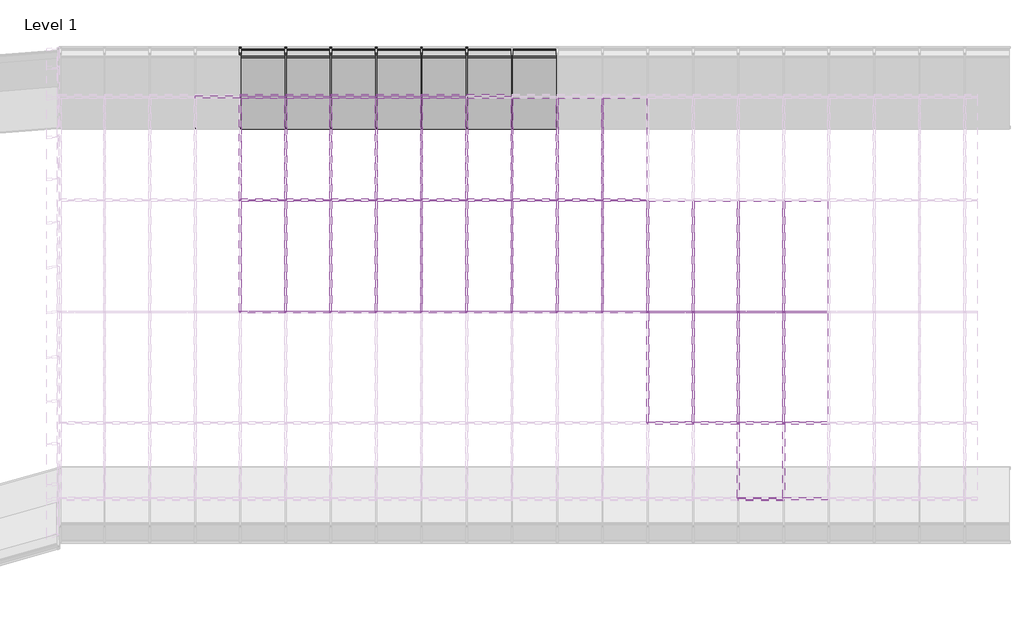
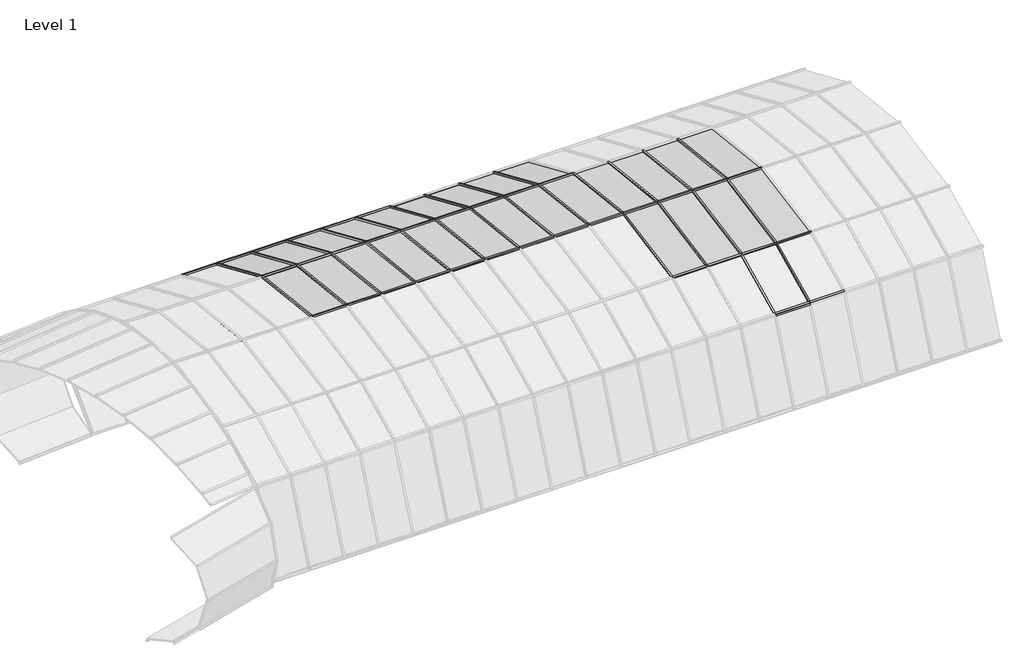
# One storey, part 19 of 23: 81 members, 40 plates.
"""IFC4 building model written with IfcOpenShell, lengths in millimetres."""

from ifc_helpers import new_model, si_unit, origin, place, context, project, spatial, transform, mapped, element, save
from components import member_68981e21, member_3e1f1dd8, member_14e241b9, member_67cfadff, member_309acb9e, member_0f8f75f6, system_panel_glazed_51f493bd, system_panel_glazed_6e806f8e, system_panel_glazed_3957fabc

model = new_model("IFC4")

# Units and contexts
model_context = context("Model", 3, world=origin())
ifc_project = project(units=[si_unit("LENGTHUNIT", "METRE", prefix="MILLI")], contexts=[model_context])

# Site, building, storey
site = spatial("IfcSite", under=ifc_project)
building = spatial("IfcBuilding", under=site)
storey = spatial("IfcBuildingStorey", under=building, Name="Level 1", Elevation=0.0)

# Members
placement = place(None, origin())
member_shape = member_68981e21(model_context)
element("IfcMember", 1, ObjectType="Rectangular Mullion : 1\" Square", at=placement, inside=storey, context=model_context, shape_type="MappedRepresentation", body=[
    mapped(member_shape, transform((-768.9499814, 2108.5088854, 2085.6089632), x_axis=(0.0, -0.9009025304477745, -0.43402146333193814), y_axis=(0.0, -0.43402146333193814, 0.9009025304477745), z_axis=(-1.0, 0.0, 0.0))),
])
element("IfcMember", 2, ObjectType="Rectangular Mullion : 1\" Square", at=placement, inside=storey, context=model_context, shape_type="MappedRepresentation", body=[
    mapped(member_shape, transform((-159.3499814, 2108.5088854, 2085.6089632), x_axis=(0.0, -0.9009025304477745, -0.43402146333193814), y_axis=(0.0, -0.43402146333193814, 0.9009025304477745), z_axis=(-1.0, 0.0, 0.0))),
])
element("IfcMember", 3, ObjectType="Rectangular Mullion : 1\" Square", at=placement, inside=storey, context=model_context, shape_type="MappedRepresentation", body=[
    mapped(member_shape, transform((-7474.5499814, 7543.2525753, 2085.6089632), x_axis=(0.0, 0.9167487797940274, -0.3994642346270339), y_axis=(0.0, 0.3994642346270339, 0.9167487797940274), z_axis=(1.0, 0.0, 0.0))),
])
element("IfcMember", 4, ObjectType="Rectangular Mullion : 1\" Square", at=placement, inside=storey, context=model_context, shape_type="MappedRepresentation", body=[
    mapped(member_shape, transform((-6864.9499814, 7543.2525753, 2085.6089632), x_axis=(0.0, 0.9167487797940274, -0.3994642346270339), y_axis=(0.0, 0.3994642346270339, 0.9167487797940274), z_axis=(1.0, 0.0, 0.0))),
])
element("IfcMember", 5, ObjectType="Rectangular Mullion : 1\" Square", at=placement, inside=storey, context=model_context, shape_type="MappedRepresentation", body=[
    mapped(member_shape, transform((-6255.3499814, 7543.2525753, 2085.6089632), x_axis=(0.0, 0.9167487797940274, -0.3994642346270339), y_axis=(0.0, 0.3994642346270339, 0.9167487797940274), z_axis=(1.0, 0.0, 0.0))),
])
element("IfcMember", 6, ObjectType="Rectangular Mullion : 1\" Square", at=placement, inside=storey, context=model_context, shape_type="MappedRepresentation", body=[
    mapped(member_shape, transform((-5645.7499814, 7543.2525753, 2085.6089632), x_axis=(0.0, 0.9167487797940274, -0.3994642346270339), y_axis=(0.0, 0.3994642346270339, 0.9167487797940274), z_axis=(1.0, 0.0, 0.0))),
])
element("IfcMember", 7, ObjectType="Rectangular Mullion : 1\" Square", at=placement, inside=storey, context=model_context, shape_type="MappedRepresentation", body=[
    mapped(member_shape, transform((-5036.1499814, 7543.2525753, 2085.6089632), x_axis=(0.0, 0.9167487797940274, -0.3994642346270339), y_axis=(0.0, 0.3994642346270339, 0.9167487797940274), z_axis=(1.0, 0.0, 0.0))),
])
element("IfcMember", 8, ObjectType="Rectangular Mullion : 1\" Square", at=placement, inside=storey, context=model_context, shape_type="MappedRepresentation", body=[
    mapped(member_shape, transform((-4426.5499814, 7543.2525753, 2085.6089632), x_axis=(0.0, 0.9167487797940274, -0.3994642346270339), y_axis=(0.0, 0.3994642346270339, 0.9167487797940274), z_axis=(1.0, 0.0, 0.0))),
])
element("IfcMember", 9, ObjectType="Rectangular Mullion : 1\" Square", at=placement, inside=storey, context=model_context, shape_type="MappedRepresentation", body=[
    mapped(member_shape, transform((-7474.5499814, 7111.8807303, 0.0), x_axis=(0.0, -0.7134126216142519, -0.7007441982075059), y_axis=(0.0, 0.7007441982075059, -0.7134126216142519), z_axis=(1.0, 0.0, 0.0))),
])
element("IfcMember", 10, ObjectType="Rectangular Mullion : 1\" Square", at=placement, inside=storey, context=model_context, shape_type="MappedRepresentation", body=[
    mapped(member_shape, transform((-6864.9499814, 7111.8807303, 0.0), x_axis=(0.0, -0.7134126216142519, -0.7007441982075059), y_axis=(0.0, 0.7007441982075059, -0.7134126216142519), z_axis=(1.0, 0.0, 0.0))),
])
element("IfcMember", 11, ObjectType="Rectangular Mullion : 1\" Square", at=placement, inside=storey, context=model_context, shape_type="MappedRepresentation", body=[
    mapped(member_shape, transform((-6255.3499814, 7111.8807303, 0.0), x_axis=(0.0, -0.7134126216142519, -0.7007441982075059), y_axis=(0.0, 0.7007441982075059, -0.7134126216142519), z_axis=(1.0, 0.0, 0.0))),
])
element("IfcMember", 12, ObjectType="Rectangular Mullion : 1\" Square", at=placement, inside=storey, context=model_context, shape_type="MappedRepresentation", body=[
    mapped(member_shape, transform((-5645.7499814, 7111.8807303, 0.0), x_axis=(0.0, -0.7134126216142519, -0.7007441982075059), y_axis=(0.0, 0.7007441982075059, -0.7134126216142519), z_axis=(1.0, 0.0, 0.0))),
])
element("IfcMember", 13, ObjectType="Rectangular Mullion : 1\" Square", at=placement, inside=storey, context=model_context, shape_type="MappedRepresentation", body=[
    mapped(member_shape, transform((-5036.1499814, 7111.8807303, 0.0), x_axis=(0.0, -0.7134126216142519, -0.7007441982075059), y_axis=(0.0, 0.7007441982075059, -0.7134126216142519), z_axis=(1.0, 0.0, 0.0))),
])
element("IfcMember", 14, ObjectType="Rectangular Mullion : 1\" Square", at=placement, inside=storey, context=model_context, shape_type="MappedRepresentation", body=[
    mapped(member_shape, transform((-4426.5499814, 7111.8807303, 0.0), x_axis=(0.0, -0.7134126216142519, -0.7007441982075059), y_axis=(0.0, 0.7007441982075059, -0.7134126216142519), z_axis=(1.0, 0.0, 0.0))),
])
member_2_shape = member_3e1f1dd8(model_context)
element("IfcMember", 15, ObjectType="Rectangular Mullion : 1\" Square", at=placement, inside=storey, context=model_context, shape_type="MappedRepresentation", body=[
    mapped(member_2_shape, transform((-7474.5499814, 4631.6132499, 2864.1651971), x_axis=(0.0, -0.9992773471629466, -0.038010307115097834), y_axis=(0.0, -0.038010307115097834, 0.9992773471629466), z_axis=(-1.0, 0.0, 0.0))),
])
element("IfcMember", 16, ObjectType="Rectangular Mullion : 1\" Square", at=placement, inside=storey, context=model_context, shape_type="MappedRepresentation", body=[
    mapped(member_2_shape, transform((-6864.9499814, 4631.6132499, 2864.1651971), x_axis=(0.0, -0.9992773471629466, -0.038010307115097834), y_axis=(0.0, -0.038010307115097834, 0.9992773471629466), z_axis=(-1.0, 0.0, 0.0))),
])
element("IfcMember", 17, ObjectType="Rectangular Mullion : 1\" Square", at=placement, inside=storey, context=model_context, shape_type="MappedRepresentation", body=[
    mapped(member_2_shape, transform((-6255.3499814, 4631.6132499, 2864.1651971), x_axis=(0.0, -0.9992773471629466, -0.038010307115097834), y_axis=(0.0, -0.038010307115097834, 0.9992773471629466), z_axis=(-1.0, 0.0, 0.0))),
])
element("IfcMember", 18, ObjectType="Rectangular Mullion : 1\" Square", at=placement, inside=storey, context=model_context, shape_type="MappedRepresentation", body=[
    mapped(member_2_shape, transform((-5645.7499814, 4631.6132499, 2864.1651971), x_axis=(0.0, -0.9992773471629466, -0.038010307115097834), y_axis=(0.0, -0.038010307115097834, 0.9992773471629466), z_axis=(-1.0, 0.0, 0.0))),
])
element("IfcMember", 19, ObjectType="Rectangular Mullion : 1\" Square", at=placement, inside=storey, context=model_context, shape_type="MappedRepresentation", body=[
    mapped(member_2_shape, transform((-5036.1499814, 4631.6132499, 2864.1651971), x_axis=(0.0, -0.9992773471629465, -0.038010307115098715), y_axis=(0.0, -0.038010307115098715, 0.9992773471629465), z_axis=(-1.0, 0.0, 0.0))),
])
element("IfcMember", 20, ObjectType="Rectangular Mullion : 1\" Square", at=placement, inside=storey, context=model_context, shape_type="MappedRepresentation", body=[
    mapped(member_2_shape, transform((-4426.5499814, 4631.6132499, 2864.1651971), x_axis=(0.0, -0.9992773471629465, -0.038010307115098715), y_axis=(0.0, -0.038010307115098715, 0.9992773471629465), z_axis=(-1.0, 0.0, 0.0))),
])
element("IfcMember", 21, ObjectType="Rectangular Mullion : 1\" Square", at=placement, inside=storey, context=model_context, shape_type="MappedRepresentation", body=[
    mapped(member_2_shape, transform((-3816.9499814, 4631.6132499, 2864.1651971), x_axis=(0.0, -0.9992773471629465, -0.038010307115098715), y_axis=(0.0, -0.038010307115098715, 0.9992773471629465), z_axis=(-1.0, 0.0, 0.0))),
])
element("IfcMember", 22, ObjectType="Rectangular Mullion : 1\" Square", at=placement, inside=storey, context=model_context, shape_type="MappedRepresentation", body=[
    mapped(member_2_shape, transform((-3207.3499814, 4631.6132499, 2864.1651971), x_axis=(0.0, -0.9992773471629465, -0.038010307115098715), y_axis=(0.0, -0.038010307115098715, 0.9992773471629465), z_axis=(-1.0, 0.0, 0.0))),
])
element("IfcMember", 23, ObjectType="Rectangular Mullion : 1\" Square", at=placement, inside=storey, context=model_context, shape_type="MappedRepresentation", body=[
    mapped(member_2_shape, transform((-2597.7499814, 4631.6132499, 2864.1651971), x_axis=(0.0, -0.9992773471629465, -0.038010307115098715), y_axis=(0.0, -0.038010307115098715, 0.9992773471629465), z_axis=(-1.0, 0.0, 0.0))),
])
element("IfcMember", 24, ObjectType="Rectangular Mullion : 1\" Square", at=placement, inside=storey, context=model_context, shape_type="MappedRepresentation", body=[
    mapped(member_2_shape, transform((-1988.1499814, 4631.6132499, 2864.1651971), x_axis=(0.0, -0.9992773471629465, -0.038010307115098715), y_axis=(0.0, -0.038010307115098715, 0.9992773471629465), z_axis=(-1.0, 0.0, 0.0))),
])
element("IfcMember", 25, ObjectType="Rectangular Mullion : 1\" Square", at=placement, inside=storey, context=model_context, shape_type="MappedRepresentation", body=[
    mapped(member_2_shape, transform((-1378.5499814, 4631.6132499, 2864.1651971), x_axis=(0.0, -0.9992773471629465, -0.038010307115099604), y_axis=(0.0, -0.038010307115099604, 0.9992773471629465), z_axis=(-1.0, 0.0, 0.0))),
])
element("IfcMember", 26, ObjectType="Rectangular Mullion : 1\" Square", at=placement, inside=storey, context=model_context, shape_type="MappedRepresentation", body=[
    mapped(member_2_shape, transform((-768.9499814, 4631.6132499, 2864.1651971), x_axis=(0.0, -0.9992773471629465, -0.038010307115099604), y_axis=(0.0, -0.038010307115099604, 0.9992773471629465), z_axis=(-1.0, 0.0, 0.0))),
])
element("IfcMember", 27, ObjectType="Rectangular Mullion : 1\" Square", at=placement, inside=storey, context=model_context, shape_type="MappedRepresentation", body=[
    mapped(member_2_shape, transform((-159.3499814, 4631.6132499, 2864.1651971), x_axis=(0.0, -0.9992773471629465, -0.038010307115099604), y_axis=(0.0, -0.038010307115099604, 0.9992773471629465), z_axis=(-1.0, 0.0, 0.0))),
])
element("IfcMember", 28, ObjectType="Rectangular Mullion : 1\" Square", at=placement, inside=storey, context=model_context, shape_type="MappedRepresentation", body=[
    mapped(member_2_shape, transform((-1988.1499814, 3134.3722562, 2579.8319299), x_axis=(0.0, -0.9436447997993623, -0.3309599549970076), y_axis=(0.0, -0.3309599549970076, 0.9436447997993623), z_axis=(-1.0, 0.0, 0.0))),
])
element("IfcMember", 29, ObjectType="Rectangular Mullion : 1\" Square", at=placement, inside=storey, context=model_context, shape_type="MappedRepresentation", body=[
    mapped(member_2_shape, transform((-1378.5499814, 3134.3722562, 2579.8319299), x_axis=(0.0, -0.9436447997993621, -0.3309599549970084), y_axis=(0.0, -0.3309599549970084, 0.9436447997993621), z_axis=(-1.0, 0.0, 0.0))),
])
element("IfcMember", 30, ObjectType="Rectangular Mullion : 1\" Square", at=placement, inside=storey, context=model_context, shape_type="MappedRepresentation", body=[
    mapped(member_2_shape, transform((-768.9499814, 3134.3722562, 2579.8319299), x_axis=(0.0, -0.9436447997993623, -0.3309599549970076), y_axis=(0.0, -0.3309599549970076, 0.9436447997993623), z_axis=(-1.0, 0.0, 0.0))),
])
element("IfcMember", 31, ObjectType="Rectangular Mullion : 1\" Square", at=placement, inside=storey, context=model_context, shape_type="MappedRepresentation", body=[
    mapped(member_2_shape, transform((-159.3499814, 3134.3722562, 2579.8319299), x_axis=(0.0, -0.9436447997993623, -0.3309599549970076), y_axis=(0.0, -0.3309599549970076, 0.9436447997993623), z_axis=(-1.0, 0.0, 0.0))),
])
element("IfcMember", 32, ObjectType="Rectangular Mullion : 1\" Square", at=placement, inside=storey, context=model_context, shape_type="MappedRepresentation", body=[
    mapped(member_shape, transform((-159.3499814, 2108.5088854, 2085.6089632), x_axis=(0.0, 0.3768960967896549, 0.9262555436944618), y_axis=(0.0, -0.9262555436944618, 0.3768960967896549), z_axis=(1.0, 0.0, 0.0))),
])
element("IfcMember", 33, ObjectType="Rectangular Mullion : 1\" Square", at=placement, inside=storey, context=model_context, shape_type="MappedRepresentation", body=[
    mapped(member_shape, transform((-7474.5499814, 7543.2525753, 2085.6089632), x_axis=(0.0, -0.5417212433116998, 0.8405582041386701), y_axis=(0.0, 0.8405582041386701, 0.5417212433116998), z_axis=(-1.0, 0.0, 0.0))),
])
element("IfcMember", 34, ObjectType="Rectangular Mullion : 1\" Square", at=placement, inside=storey, context=model_context, shape_type="MappedRepresentation", body=[
    mapped(member_shape, transform((-6864.9499814, 7543.2525753, 2085.6089632), x_axis=(0.0, -0.5417212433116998, 0.8405582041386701), y_axis=(0.0, 0.8405582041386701, 0.5417212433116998), z_axis=(-1.0, 0.0, 0.0))),
])
element("IfcMember", 35, ObjectType="Rectangular Mullion : 1\" Square", at=placement, inside=storey, context=model_context, shape_type="MappedRepresentation", body=[
    mapped(member_shape, transform((-6255.3499814, 7543.2525753, 2085.6089632), x_axis=(0.0, -0.5417212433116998, 0.8405582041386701), y_axis=(0.0, 0.8405582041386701, 0.5417212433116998), z_axis=(-1.0, 0.0, 0.0))),
])
element("IfcMember", 36, ObjectType="Rectangular Mullion : 1\" Square", at=placement, inside=storey, context=model_context, shape_type="MappedRepresentation", body=[
    mapped(member_shape, transform((-5645.7499814, 7543.2525753, 2085.6089632), x_axis=(0.0, -0.5417212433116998, 0.8405582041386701), y_axis=(0.0, 0.8405582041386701, 0.5417212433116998), z_axis=(-1.0, 0.0, 0.0))),
])
element("IfcMember", 37, ObjectType="Rectangular Mullion : 1\" Square", at=placement, inside=storey, context=model_context, shape_type="MappedRepresentation", body=[
    mapped(member_shape, transform((-5036.1499814, 7543.2525753, 2085.6089632), x_axis=(0.0, -0.5417212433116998, 0.8405582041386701), y_axis=(0.0, 0.8405582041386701, 0.5417212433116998), z_axis=(-1.0, 0.0, 0.0))),
])
element("IfcMember", 38, ObjectType="Rectangular Mullion : 1\" Square", at=placement, inside=storey, context=model_context, shape_type="MappedRepresentation", body=[
    mapped(member_shape, transform((-4426.5499814, 7543.2525753, 2085.6089632), x_axis=(0.0, -0.5417212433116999, 0.84055820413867), y_axis=(0.0, 0.84055820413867, 0.5417212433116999), z_axis=(-1.0, 0.0, 0.0))),
])
element("IfcMember", 39, ObjectType="Rectangular Mullion : 1\" Square", at=placement, inside=storey, context=model_context, shape_type="MappedRepresentation", body=[
    mapped(member_2_shape, transform((-7474.5499814, 6146.1274349, 2694.3924567), x_axis=(0.0, -0.9660596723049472, 0.25831900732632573), y_axis=(0.0, 0.25831900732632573, 0.9660596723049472), z_axis=(-1.0, 0.0, 0.0))),
])
element("IfcMember", 40, ObjectType="Rectangular Mullion : 1\" Square", at=placement, inside=storey, context=model_context, shape_type="MappedRepresentation", body=[
    mapped(member_2_shape, transform((-6864.9499814, 6146.1274349, 2694.3924567), x_axis=(0.0, -0.9660596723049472, 0.25831900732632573), y_axis=(0.0, 0.25831900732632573, 0.9660596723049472), z_axis=(-1.0, 0.0, 0.0))),
])
element("IfcMember", 41, ObjectType="Rectangular Mullion : 1\" Square", at=placement, inside=storey, context=model_context, shape_type="MappedRepresentation", body=[
    mapped(member_2_shape, transform((-6255.3499814, 6146.1274349, 2694.3924567), x_axis=(0.0, -0.9660596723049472, 0.25831900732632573), y_axis=(0.0, 0.25831900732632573, 0.9660596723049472), z_axis=(-1.0, 0.0, 0.0))),
])
element("IfcMember", 42, ObjectType="Rectangular Mullion : 1\" Square", at=placement, inside=storey, context=model_context, shape_type="MappedRepresentation", body=[
    mapped(member_2_shape, transform((-5645.7499814, 6146.1274349, 2694.3924567), x_axis=(0.0, -0.9660596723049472, 0.25831900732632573), y_axis=(0.0, 0.25831900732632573, 0.9660596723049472), z_axis=(-1.0, 0.0, 0.0))),
])
element("IfcMember", 43, ObjectType="Rectangular Mullion : 1\" Square", at=placement, inside=storey, context=model_context, shape_type="MappedRepresentation", body=[
    mapped(member_2_shape, transform((-5036.1499814, 6146.1274349, 2694.3924567), x_axis=(0.0, -0.9660596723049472, 0.25831900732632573), y_axis=(0.0, 0.25831900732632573, 0.9660596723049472), z_axis=(-1.0, 0.0, 0.0))),
])
element("IfcMember", 44, ObjectType="Rectangular Mullion : 1\" Square", at=placement, inside=storey, context=model_context, shape_type="MappedRepresentation", body=[
    mapped(member_2_shape, transform((-4426.5499814, 6146.1274349, 2694.3924567), x_axis=(0.0, -0.9660596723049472, 0.25831900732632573), y_axis=(0.0, 0.25831900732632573, 0.9660596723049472), z_axis=(-1.0, 0.0, 0.0))),
])
element("IfcMember", 45, ObjectType="Rectangular Mullion : 1\" Square", at=placement, inside=storey, context=model_context, shape_type="MappedRepresentation", body=[
    mapped(member_2_shape, transform((-3816.9499814, 6146.1274349, 2694.3924567), x_axis=(0.0, -0.9660596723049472, 0.25831900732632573), y_axis=(0.0, 0.25831900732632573, 0.9660596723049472), z_axis=(-1.0, 0.0, 0.0))),
])
element("IfcMember", 46, ObjectType="Rectangular Mullion : 1\" Square", at=placement, inside=storey, context=model_context, shape_type="MappedRepresentation", body=[
    mapped(member_2_shape, transform((-3207.3499814, 6146.1274349, 2694.3924567), x_axis=(0.0, -0.9660596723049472, 0.25831900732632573), y_axis=(0.0, 0.25831900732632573, 0.9660596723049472), z_axis=(-1.0, 0.0, 0.0))),
])
element("IfcMember", 47, ObjectType="Rectangular Mullion : 1\" Square", at=placement, inside=storey, context=model_context, shape_type="MappedRepresentation", body=[
    mapped(member_2_shape, transform((-2597.7499814, 6146.1274349, 2694.3924567), x_axis=(0.0, -0.9660596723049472, 0.25831900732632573), y_axis=(0.0, 0.25831900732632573, 0.9660596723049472), z_axis=(-1.0, 0.0, 0.0))),
])
member_3_shape = member_14e241b9(model_context)
element("IfcMember", 48, ObjectType="Rectangular Mullion : 1\" Square", at=placement, inside=storey, context=model_context, shape_type="MappedRepresentation", body=[
    mapped(member_3_shape, transform((-768.9499814, 2131.3918096, 2096.6331083), x_axis=(1.0, 0.0, 0.0), y_axis=(0.0, -0.43402146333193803, 0.9009025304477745), z_axis=(0.0, -0.9009025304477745, -0.43402146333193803))),
])
element("IfcMember", 49, ObjectType="Rectangular Mullion : 1\" Square", at=placement, inside=storey, context=model_context, shape_type="MappedRepresentation", body=[
    mapped(member_3_shape, transform((-159.3499814, 2131.3918096, 2096.6331083), x_axis=(1.0, 0.0, 0.0), y_axis=(0.0, -0.43402146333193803, 0.9009025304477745), z_axis=(0.0, -0.9009025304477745, -0.43402146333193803))),
])
member_4_shape = member_67cfadff(model_context)
element("IfcMember", 50, ObjectType="Rectangular Mullion : 1\" Square", at=placement, inside=storey, context=model_context, shape_type="MappedRepresentation", body=[
    mapped(member_4_shape, transform((-5036.1499814, 6157.7701444, 2689.3192609), x_axis=(1.0, 0.0, 0.0), y_axis=(0.0, 0.3994642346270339, 0.9167487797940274), z_axis=(0.0, -0.9167487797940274, 0.3994642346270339))),
])
element("IfcMember", 51, ObjectType="Rectangular Mullion : 1\" Square", at=placement, inside=storey, context=model_context, shape_type="MappedRepresentation", body=[
    mapped(member_4_shape, transform((-4426.5499814, 6157.7701444, 2689.3192609), x_axis=(1.0, 0.0, 0.0), y_axis=(0.0, 0.3994642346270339, 0.9167487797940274), z_axis=(0.0, -0.9167487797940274, 0.3994642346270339))),
])
element("IfcMember", 52, ObjectType="Rectangular Mullion : 1\" Square", at=placement, inside=storey, context=model_context, shape_type="MappedRepresentation", body=[
    mapped(member_4_shape, transform((-3816.9499814, 6157.7701444, 2689.3192609), x_axis=(1.0, 0.0, 0.0), y_axis=(0.0, 0.3994642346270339, 0.9167487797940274), z_axis=(0.0, -0.9167487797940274, 0.3994642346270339))),
])
element("IfcMember", 53, ObjectType="Rectangular Mullion : 1\" Square", at=placement, inside=storey, context=model_context, shape_type="MappedRepresentation", body=[
    mapped(member_4_shape, transform((-3207.3499814, 6157.7701444, 2689.3192609), x_axis=(1.0, 0.0, 0.0), y_axis=(0.0, 0.3994642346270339, 0.9167487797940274), z_axis=(0.0, -0.9167487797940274, 0.3994642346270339))),
])
element("IfcMember", 54, ObjectType="Rectangular Mullion : 1\" Square", at=placement, inside=storey, context=model_context, shape_type="MappedRepresentation", body=[
    mapped(member_4_shape, transform((-2597.7499814, 6157.7701444, 2689.3192609), x_axis=(1.0, 0.0, 0.0), y_axis=(0.0, 0.3994642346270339, 0.9167487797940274), z_axis=(0.0, -0.9167487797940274, 0.3994642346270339))),
])
element("IfcMember", 55, ObjectType="Rectangular Mullion : 1\" Square", at=placement, inside=storey, context=model_context, shape_type="MappedRepresentation", body=[
    mapped(member_4_shape, transform((-6864.9499814, 6157.7701444, 2689.3192609), x_axis=(1.0, 0.0, 0.0), y_axis=(0.0, 0.3994642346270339, 0.9167487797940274), z_axis=(0.0, -0.9167487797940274, 0.3994642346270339))),
])
element("IfcMember", 56, ObjectType="Rectangular Mullion : 1\" Square", at=placement, inside=storey, context=model_context, shape_type="MappedRepresentation", body=[
    mapped(member_4_shape, transform((-6255.3499814, 6157.7701444, 2689.3192609), x_axis=(1.0, 0.0, 0.0), y_axis=(0.0, 0.3994642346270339, 0.9167487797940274), z_axis=(0.0, -0.9167487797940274, 0.3994642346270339))),
])
element("IfcMember", 57, ObjectType="Rectangular Mullion : 1\" Square", at=placement, inside=storey, context=model_context, shape_type="MappedRepresentation", body=[
    mapped(member_4_shape, transform((-5645.7499814, 6157.7701444, 2689.3192609), x_axis=(1.0, 0.0, 0.0), y_axis=(0.0, 0.3994642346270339, 0.9167487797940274), z_axis=(0.0, -0.9167487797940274, 0.3994642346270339))),
])
element("IfcMember", 58, ObjectType="Rectangular Mullion : 1\" Square", at=placement, inside=storey, context=model_context, shape_type="MappedRepresentation", body=[
    mapped(member_4_shape, transform((-7474.5499814, 6157.7701444, 2689.3192609), x_axis=(1.0, 0.0, 0.0), y_axis=(0.0, 0.3994642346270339, 0.9167487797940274), z_axis=(0.0, -0.9167487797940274, 0.3994642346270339))),
])
member_5_shape = member_309acb9e(model_context)
element("IfcMember", 59, ObjectType="Rectangular Mullion : 1\" Square", at=placement, inside=storey, context=model_context, shape_type="MappedRepresentation", body=[
    mapped(member_5_shape, transform((-1988.1499814, 4644.2342014, 2862.7504243), x_axis=(1.0, 0.0, 0.0), y_axis=(0.0, 0.1113994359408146, 0.9937757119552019), z_axis=(0.0, -0.9937757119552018, 0.11139943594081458))),
])
element("IfcMember", 60, ObjectType="Rectangular Mullion : 1\" Square", at=placement, inside=storey, context=model_context, shape_type="MappedRepresentation", body=[
    mapped(member_5_shape, transform((-1378.5499814, 4644.2342014, 2862.7504243), x_axis=(1.0, 0.0, 0.0), y_axis=(0.0, 0.1113994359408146, 0.9937757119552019), z_axis=(0.0, -0.9937757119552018, 0.11139943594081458))),
])
element("IfcMember", 61, ObjectType="Rectangular Mullion : 1\" Square", at=placement, inside=storey, context=model_context, shape_type="MappedRepresentation", body=[
    mapped(member_5_shape, transform((-768.9499814, 4644.2342014, 2862.7504243), x_axis=(1.0, 0.0, 0.0), y_axis=(0.0, 0.1113994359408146, 0.9937757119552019), z_axis=(0.0, -0.9937757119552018, 0.11139943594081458))),
])
element("IfcMember", 62, ObjectType="Rectangular Mullion : 1\" Square", at=placement, inside=storey, context=model_context, shape_type="MappedRepresentation", body=[
    mapped(member_5_shape, transform((-5645.7499814, 4644.2342014, 2862.7504243), x_axis=(1.0, 0.0, 0.0), y_axis=(0.0, 0.11139943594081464, 0.9937757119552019), z_axis=(0.0, -0.9937757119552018, 0.11139943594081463))),
])
element("IfcMember", 63, ObjectType="Rectangular Mullion : 1\" Square", at=placement, inside=storey, context=model_context, shape_type="MappedRepresentation", body=[
    mapped(member_5_shape, transform((-5036.1499814, 4644.2342014, 2862.7504243), x_axis=(1.0, 0.0, 0.0), y_axis=(0.0, 0.11139943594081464, 0.9937757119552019), z_axis=(0.0, -0.9937757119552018, 0.11139943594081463))),
])
element("IfcMember", 64, ObjectType="Rectangular Mullion : 1\" Square", at=placement, inside=storey, context=model_context, shape_type="MappedRepresentation", body=[
    mapped(member_5_shape, transform((-4426.5499814, 4644.2342014, 2862.7504243), x_axis=(1.0, 0.0, 0.0), y_axis=(0.0, 0.11139943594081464, 0.9937757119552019), z_axis=(0.0, -0.9937757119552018, 0.11139943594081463))),
])
element("IfcMember", 65, ObjectType="Rectangular Mullion : 1\" Square", at=placement, inside=storey, context=model_context, shape_type="MappedRepresentation", body=[
    mapped(member_5_shape, transform((-3816.9499814, 4644.2342014, 2862.7504243), x_axis=(1.0, 0.0, 0.0), y_axis=(0.0, 0.11139943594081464, 0.9937757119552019), z_axis=(0.0, -0.9937757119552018, 0.11139943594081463))),
])
element("IfcMember", 66, ObjectType="Rectangular Mullion : 1\" Square", at=placement, inside=storey, context=model_context, shape_type="MappedRepresentation", body=[
    mapped(member_5_shape, transform((-3207.3499814, 4644.2342014, 2862.7504243), x_axis=(1.0, 0.0, 0.0), y_axis=(0.0, 0.11139943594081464, 0.9937757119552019), z_axis=(0.0, -0.9937757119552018, 0.11139943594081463))),
])
element("IfcMember", 67, ObjectType="Rectangular Mullion : 1\" Square", at=placement, inside=storey, context=model_context, shape_type="MappedRepresentation", body=[
    mapped(member_5_shape, transform((-2597.7499814, 4644.2342014, 2862.7504243), x_axis=(1.0, 0.0, 0.0), y_axis=(0.0, 0.11139943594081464, 0.9937757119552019), z_axis=(0.0, -0.9937757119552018, 0.11139943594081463))),
])
element("IfcMember", 68, ObjectType="Rectangular Mullion : 1\" Square", at=placement, inside=storey, context=model_context, shape_type="MappedRepresentation", body=[
    mapped(member_5_shape, transform((-159.3499814, 4644.2342014, 2862.7504243), x_axis=(1.0, 0.0, 0.0), y_axis=(0.0, 0.1113994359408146, 0.9937757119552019), z_axis=(0.0, -0.9937757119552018, 0.11139943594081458))),
])
element("IfcMember", 69, ObjectType="Rectangular Mullion : 1\" Square", at=placement, inside=storey, context=model_context, shape_type="MappedRepresentation", body=[
    mapped(member_5_shape, transform((-6864.9499814, 4644.2342014, 2862.7504243), x_axis=(1.0, 0.0, 0.0), y_axis=(0.0, 0.11139943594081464, 0.9937757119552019), z_axis=(0.0, -0.9937757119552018, 0.11139943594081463))),
])
element("IfcMember", 70, ObjectType="Rectangular Mullion : 1\" Square", at=placement, inside=storey, context=model_context, shape_type="MappedRepresentation", body=[
    mapped(member_5_shape, transform((-6255.3499814, 4644.2342014, 2862.7504243), x_axis=(1.0, 0.0, 0.0), y_axis=(0.0, 0.11139943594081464, 0.9937757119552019), z_axis=(0.0, -0.9937757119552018, 0.11139943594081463))),
])
element("IfcMember", 71, ObjectType="Rectangular Mullion : 1\" Square", at=placement, inside=storey, context=model_context, shape_type="MappedRepresentation", body=[
    mapped(member_5_shape, transform((-7474.5499814, 4644.2342014, 2862.7504243), x_axis=(1.0, 0.0, 0.0), y_axis=(0.0, 0.11139943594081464, 0.9937757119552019), z_axis=(0.0, -0.9937757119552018, 0.11139943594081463))),
])
element("IfcMember", 72, ObjectType="Rectangular Mullion : 1\" Square", at=placement, inside=storey, context=model_context, shape_type="MappedRepresentation", body=[
    mapped(member_5_shape, transform((-1988.1499814, 3146.8492645, 2582.2013738), x_axis=(1.0, 0.0, 0.0), y_axis=(0.0, -0.1865703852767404, 0.9824415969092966), z_axis=(0.0, -0.9824415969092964, -0.18657038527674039))),
])
element("IfcMember", 73, ObjectType="Rectangular Mullion : 1\" Square", at=placement, inside=storey, context=model_context, shape_type="MappedRepresentation", body=[
    mapped(member_5_shape, transform((-1378.5499814, 3146.8492645, 2582.2013738), x_axis=(1.0, 0.0, 0.0), y_axis=(0.0, -0.18657038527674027, 0.9824415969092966), z_axis=(0.0, -0.9824415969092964, -0.18657038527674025))),
])
element("IfcMember", 74, ObjectType="Rectangular Mullion : 1\" Square", at=placement, inside=storey, context=model_context, shape_type="MappedRepresentation", body=[
    mapped(member_5_shape, transform((-768.9499814, 3146.8492645, 2582.2013738), x_axis=(1.0, 0.0, 0.0), y_axis=(0.0, -0.18657038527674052, 0.9824415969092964), z_axis=(0.0, -0.9824415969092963, -0.1865703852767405))),
])
element("IfcMember", 75, ObjectType="Rectangular Mullion : 1\" Square", at=placement, inside=storey, context=model_context, shape_type="MappedRepresentation", body=[
    mapped(member_5_shape, transform((-159.3499814, 3146.8492645, 2582.2013738), x_axis=(1.0, 0.0, 0.0), y_axis=(0.0, -0.18657038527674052, 0.9824415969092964), z_axis=(0.0, -0.9824415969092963, -0.1865703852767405))),
])
member_6_shape = member_0f8f75f6(model_context)
element("IfcMember", 76, ObjectType="Rectangular Mullion : 1\" Square", at=placement, inside=storey, context=model_context, shape_type="MappedRepresentation", body=[
    mapped(member_6_shape, transform((-6255.3499814, 7557.0122949, 2064.2587848), x_axis=(1.0, 0.0, 0.0), y_axis=(0.0, 0.8405582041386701, 0.5417212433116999), z_axis=(0.0, -0.5417212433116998, 0.84055820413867))),
])
element("IfcMember", 77, ObjectType="Rectangular Mullion : 1\" Square", at=placement, inside=storey, context=model_context, shape_type="MappedRepresentation", body=[
    mapped(member_6_shape, transform((-6864.9499814, 7557.0122949, 2064.2587848), x_axis=(1.0, 0.0, 0.0), y_axis=(0.0, 0.8405582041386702, 0.5417212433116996), z_axis=(0.0, -0.5417212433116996, 0.8405582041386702))),
])
element("IfcMember", 78, ObjectType="Rectangular Mullion : 1\" Square", at=placement, inside=storey, context=model_context, shape_type="MappedRepresentation", body=[
    mapped(member_6_shape, transform((-7474.5499814, 7557.0122949, 2064.2587848), x_axis=(1.0, 0.0, 0.0), y_axis=(0.0, 0.8405582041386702, 0.5417212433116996), z_axis=(0.0, -0.5417212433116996, 0.8405582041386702))),
])
element("IfcMember", 79, ObjectType="Rectangular Mullion : 1\" Square", at=placement, inside=storey, context=model_context, shape_type="MappedRepresentation", body=[
    mapped(member_6_shape, transform((-4426.5499814, 7557.0122949, 2064.2587848), x_axis=(1.0, 0.0, 0.0), y_axis=(0.0, 0.8405582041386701, 0.5417212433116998), z_axis=(0.0, -0.5417212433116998, 0.8405582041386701))),
])
element("IfcMember", 80, ObjectType="Rectangular Mullion : 1\" Square", at=placement, inside=storey, context=model_context, shape_type="MappedRepresentation", body=[
    mapped(member_6_shape, transform((-5036.1499814, 7557.0122949, 2064.2587848), x_axis=(1.0, 0.0, 0.0), y_axis=(0.0, 0.8405582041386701, 0.5417212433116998), z_axis=(0.0, -0.5417212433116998, 0.8405582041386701))),
])
element("IfcMember", 81, ObjectType="Rectangular Mullion : 1\" Square", at=placement, inside=storey, context=model_context, shape_type="MappedRepresentation", body=[
    mapped(member_6_shape, transform((-5645.7499814, 7557.0122949, 2064.2587848), x_axis=(1.0, 0.0, 0.0), y_axis=(0.0, 0.8405582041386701, 0.5417212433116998), z_axis=(0.0, -0.5417212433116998, 0.8405582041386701))),
])

# Plates
system_panel_glazed_shape = system_panel_glazed_51f493bd(model_context)
element("IfcPlate", 82, ObjectType="System Panel : Glazed", at=placement, inside=storey, context=model_context, shape_type="MappedRepresentation", body=[
    mapped(system_panel_glazed_shape, transform((-7461.8499814, 6838.8686503, 2392.5373078), x_axis=(0.0, -0.9167487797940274, 0.3994642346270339), y_axis=(0.0, -0.3994642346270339, -0.9167487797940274), z_axis=(1.0, 0.0, 0.0))),
])
element("IfcPlate", 83, ObjectType="System Panel : Glazed", at=placement, inside=storey, context=model_context, shape_type="MappedRepresentation", body=[
    mapped(system_panel_glazed_shape, transform((-6852.2499814, 6838.8686503, 2392.5373078), x_axis=(0.0, -0.9167487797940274, 0.3994642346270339), y_axis=(0.0, -0.3994642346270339, -0.9167487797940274), z_axis=(1.0, 0.0, 0.0))),
])
element("IfcPlate", 84, ObjectType="System Panel : Glazed", at=placement, inside=storey, context=model_context, shape_type="MappedRepresentation", body=[
    mapped(system_panel_glazed_shape, transform((-6242.6499814, 6838.8686503, 2392.5373078), x_axis=(0.0, -0.9167487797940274, 0.3994642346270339), y_axis=(0.0, -0.3994642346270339, -0.9167487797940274), z_axis=(1.0, 0.0, 0.0))),
])
element("IfcPlate", 85, ObjectType="System Panel : Glazed", at=placement, inside=storey, context=model_context, shape_type="MappedRepresentation", body=[
    mapped(system_panel_glazed_shape, transform((-5633.0499814, 6838.8686503, 2392.5373078), x_axis=(0.0, -0.9167487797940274, 0.3994642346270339), y_axis=(0.0, -0.3994642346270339, -0.9167487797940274), z_axis=(1.0, 0.0, 0.0))),
])
element("IfcPlate", 86, ObjectType="System Panel : Glazed", at=placement, inside=storey, context=model_context, shape_type="MappedRepresentation", body=[
    mapped(system_panel_glazed_shape, transform((-5023.4499814, 6838.8686503, 2392.5373078), x_axis=(0.0, -0.9167487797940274, 0.3994642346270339), y_axis=(0.0, -0.3994642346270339, -0.9167487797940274), z_axis=(1.0, 0.0, 0.0))),
])
element("IfcPlate", 87, ObjectType="System Panel : Glazed", at=placement, inside=storey, context=model_context, shape_type="MappedRepresentation", body=[
    mapped(system_panel_glazed_shape, transform((-4413.8499814, 6838.8686503, 2392.5373078), x_axis=(0.0, -0.9167487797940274, 0.3994642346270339), y_axis=(0.0, -0.3994642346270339, -0.9167487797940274), z_axis=(1.0, 0.0, 0.0))),
])
element("IfcPlate", 88, ObjectType="System Panel : Glazed", at=placement, inside=storey, context=model_context, shape_type="MappedRepresentation", body=[
    mapped(system_panel_glazed_shape, transform((-3804.2499814, 6838.8686503, 2392.5373078), x_axis=(0.0, -0.9167487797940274, 0.3994642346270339), y_axis=(0.0, -0.3994642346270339, -0.9167487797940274), z_axis=(1.0, 0.0, 0.0))),
])
element("IfcPlate", 89, ObjectType="System Panel : Glazed", at=placement, inside=storey, context=model_context, shape_type="MappedRepresentation", body=[
    mapped(system_panel_glazed_shape, transform((-3194.6499814, 6838.8686503, 2392.5373078), x_axis=(0.0, -0.9167487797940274, 0.3994642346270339), y_axis=(0.0, -0.3994642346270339, -0.9167487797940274), z_axis=(1.0, 0.0, 0.0))),
])
element("IfcPlate", 90, ObjectType="System Panel : Glazed", at=placement, inside=storey, context=model_context, shape_type="MappedRepresentation", body=[
    mapped(system_panel_glazed_shape, transform((-2585.0499814, 6838.8686503, 2392.5373078), x_axis=(0.0, -0.9167487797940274, 0.3994642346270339), y_axis=(0.0, -0.3994642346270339, -0.9167487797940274), z_axis=(1.0, 0.0, 0.0))),
])
element("IfcPlate", 91, ObjectType="System Panel : Glazed", at=placement, inside=storey, context=model_context, shape_type="MappedRepresentation", body=[
    mapped(system_panel_glazed_shape, transform((-7461.8499814, 7660.0313181, 538.4168047), x_axis=(0.0, 0.7134126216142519, 0.7007441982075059), y_axis=(0.0, -0.7007441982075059, 0.7134126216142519), z_axis=(1.0, 0.0, 0.0))),
])
element("IfcPlate", 92, ObjectType="System Panel : Glazed", at=placement, inside=storey, context=model_context, shape_type="MappedRepresentation", body=[
    mapped(system_panel_glazed_shape, transform((-6852.2499814, 7660.0313181, 538.4168047), x_axis=(0.0, 0.7134126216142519, 0.7007441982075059), y_axis=(0.0, -0.7007441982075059, 0.7134126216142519), z_axis=(1.0, 0.0, 0.0))),
])
element("IfcPlate", 93, ObjectType="System Panel : Glazed", at=placement, inside=storey, context=model_context, shape_type="MappedRepresentation", body=[
    mapped(system_panel_glazed_shape, transform((-6242.6499814, 7660.0313181, 538.4168047), x_axis=(0.0, 0.7134126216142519, 0.7007441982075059), y_axis=(0.0, -0.7007441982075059, 0.7134126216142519), z_axis=(1.0, 0.0, 0.0))),
])
element("IfcPlate", 94, ObjectType="System Panel : Glazed", at=placement, inside=storey, context=model_context, shape_type="MappedRepresentation", body=[
    mapped(system_panel_glazed_shape, transform((-5633.0499814, 7660.0313181, 538.4168047), x_axis=(0.0, 0.7134126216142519, 0.7007441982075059), y_axis=(0.0, -0.7007441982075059, 0.7134126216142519), z_axis=(1.0, 0.0, 0.0))),
])
element("IfcPlate", 95, ObjectType="System Panel : Glazed", at=placement, inside=storey, context=model_context, shape_type="MappedRepresentation", body=[
    mapped(system_panel_glazed_shape, transform((-5023.4499814, 7660.0313181, 538.4168047), x_axis=(0.0, 0.7134126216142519, 0.7007441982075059), y_axis=(0.0, -0.7007441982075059, 0.7134126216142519), z_axis=(1.0, 0.0, 0.0))),
])
element("IfcPlate", 96, ObjectType="System Panel : Glazed", at=placement, inside=storey, context=model_context, shape_type="MappedRepresentation", body=[
    mapped(system_panel_glazed_shape, transform((-4413.8499814, 7660.0313181, 538.4168047), x_axis=(0.0, 0.7134126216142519, 0.7007441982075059), y_axis=(0.0, -0.7007441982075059, 0.7134126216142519), z_axis=(1.0, 0.0, 0.0))),
])
element("IfcPlate", 97, ObjectType="System Panel : Glazed", at=placement, inside=storey, context=model_context, shape_type="MappedRepresentation", body=[
    mapped(system_panel_glazed_shape, transform((-3804.2499814, 7660.0313181, 538.4168047), x_axis=(0.0, 0.7134126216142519, 0.7007441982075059), y_axis=(0.0, -0.7007441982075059, 0.7134126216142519), z_axis=(1.0, 0.0, 0.0))),
])
system_panel_glazed_2_shape = system_panel_glazed_6e806f8e(model_context)
element("IfcPlate", 98, ObjectType="System Panel : Glazed", at=placement, inside=storey, context=model_context, shape_type="MappedRepresentation", body=[
    mapped(system_panel_glazed_2_shape, transform((-7461.8499814, 5388.8703424, 2779.2788269), x_axis=(0.0, -0.9937757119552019, 0.11139943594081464), y_axis=(0.0, -0.11139943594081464, -0.9937757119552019), z_axis=(1.0, 0.0, 0.0))),
])
element("IfcPlate", 99, ObjectType="System Panel : Glazed", at=placement, inside=storey, context=model_context, shape_type="MappedRepresentation", body=[
    mapped(system_panel_glazed_2_shape, transform((-6852.2499814, 5388.8703424, 2779.2788269), x_axis=(0.0, -0.9937757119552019, 0.11139943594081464), y_axis=(0.0, -0.11139943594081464, -0.9937757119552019), z_axis=(1.0, 0.0, 0.0))),
])
element("IfcPlate", 100, ObjectType="System Panel : Glazed", at=placement, inside=storey, context=model_context, shape_type="MappedRepresentation", body=[
    mapped(system_panel_glazed_2_shape, transform((-6242.6499814, 5388.8703424, 2779.2788269), x_axis=(0.0, -0.9937757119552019, 0.11139943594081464), y_axis=(0.0, -0.11139943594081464, -0.9937757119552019), z_axis=(1.0, 0.0, 0.0))),
])
element("IfcPlate", 101, ObjectType="System Panel : Glazed", at=placement, inside=storey, context=model_context, shape_type="MappedRepresentation", body=[
    mapped(system_panel_glazed_2_shape, transform((-5633.0499814, 5388.8703424, 2779.2788269), x_axis=(0.0, -0.9937757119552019, 0.11139943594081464), y_axis=(0.0, -0.11139943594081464, -0.9937757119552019), z_axis=(1.0, 0.0, 0.0))),
])
element("IfcPlate", 102, ObjectType="System Panel : Glazed", at=placement, inside=storey, context=model_context, shape_type="MappedRepresentation", body=[
    mapped(system_panel_glazed_2_shape, transform((-5023.4499814, 5388.8703424, 2779.2788269), x_axis=(0.0, -0.9937757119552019, 0.11139943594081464), y_axis=(0.0, -0.11139943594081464, -0.9937757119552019), z_axis=(1.0, 0.0, 0.0))),
])
element("IfcPlate", 103, ObjectType="System Panel : Glazed", at=placement, inside=storey, context=model_context, shape_type="MappedRepresentation", body=[
    mapped(system_panel_glazed_2_shape, transform((-4413.8499814, 5388.8703424, 2779.2788269), x_axis=(0.0, -0.9937757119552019, 0.11139943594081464), y_axis=(0.0, -0.11139943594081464, -0.9937757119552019), z_axis=(1.0, 0.0, 0.0))),
])
element("IfcPlate", 104, ObjectType="System Panel : Glazed", at=placement, inside=storey, context=model_context, shape_type="MappedRepresentation", body=[
    mapped(system_panel_glazed_2_shape, transform((-3804.2499814, 5388.8703424, 2779.2788269), x_axis=(0.0, -0.9937757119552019, 0.11139943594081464), y_axis=(0.0, -0.11139943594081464, -0.9937757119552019), z_axis=(1.0, 0.0, 0.0))),
])
element("IfcPlate", 105, ObjectType="System Panel : Glazed", at=placement, inside=storey, context=model_context, shape_type="MappedRepresentation", body=[
    mapped(system_panel_glazed_2_shape, transform((-3194.6499814, 5388.8703424, 2779.2788269), x_axis=(0.0, -0.9937757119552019, 0.11139943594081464), y_axis=(0.0, -0.11139943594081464, -0.9937757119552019), z_axis=(1.0, 0.0, 0.0))),
])
element("IfcPlate", 106, ObjectType="System Panel : Glazed", at=placement, inside=storey, context=model_context, shape_type="MappedRepresentation", body=[
    mapped(system_panel_glazed_2_shape, transform((-2585.0499814, 5388.8703424, 2779.2788269), x_axis=(0.0, -0.9937757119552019, 0.11139943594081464), y_axis=(0.0, -0.11139943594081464, -0.9937757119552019), z_axis=(1.0, 0.0, 0.0))),
])
element("IfcPlate", 107, ObjectType="System Panel : Glazed", at=placement, inside=storey, context=model_context, shape_type="MappedRepresentation", body=[
    mapped(system_panel_glazed_2_shape, transform((-1975.4499814, 5388.8703424, 2779.2788269), x_axis=(0.0, -0.9937757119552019, 0.11139943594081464), y_axis=(0.0, -0.11139943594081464, -0.9937757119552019), z_axis=(1.0, 0.0, 0.0))),
])
element("IfcPlate", 108, ObjectType="System Panel : Glazed", at=placement, inside=storey, context=model_context, shape_type="MappedRepresentation", body=[
    mapped(system_panel_glazed_2_shape, transform((-1975.4499814, 3882.992753, 2721.9985635), x_axis=(0.0, -0.9824415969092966, -0.18657038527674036), y_axis=(0.0, 0.18657038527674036, -0.9824415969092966), z_axis=(1.0, 0.0, 0.0))),
])
element("IfcPlate", 109, ObjectType="System Panel : Glazed", at=placement, inside=storey, context=model_context, shape_type="MappedRepresentation", body=[
    mapped(system_panel_glazed_2_shape, transform((-1365.8499814, 5388.8703424, 2779.2788269), x_axis=(0.0, -0.9937757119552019, 0.11139943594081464), y_axis=(0.0, -0.11139943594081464, -0.9937757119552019), z_axis=(1.0, 0.0, 0.0))),
])
element("IfcPlate", 110, ObjectType="System Panel : Glazed", at=placement, inside=storey, context=model_context, shape_type="MappedRepresentation", body=[
    mapped(system_panel_glazed_2_shape, transform((-1365.8499814, 3882.992753, 2721.9985635), x_axis=(0.0, -0.9824415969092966, -0.18657038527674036), y_axis=(0.0, 0.18657038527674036, -0.9824415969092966), z_axis=(1.0, 0.0, 0.0))),
])
element("IfcPlate", 111, ObjectType="System Panel : Glazed", at=placement, inside=storey, context=model_context, shape_type="MappedRepresentation", body=[
    mapped(system_panel_glazed_2_shape, transform((-756.2499814, 5388.8703424, 2779.2788269), x_axis=(0.0, -0.9937757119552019, 0.11139943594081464), y_axis=(0.0, -0.11139943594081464, -0.9937757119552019), z_axis=(1.0, 0.0, 0.0))),
])
element("IfcPlate", 112, ObjectType="System Panel : Glazed", at=placement, inside=storey, context=model_context, shape_type="MappedRepresentation", body=[
    mapped(system_panel_glazed_2_shape, transform((-756.2499814, 3882.992753, 2721.9985635), x_axis=(0.0, -0.9824415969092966, -0.18657038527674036), y_axis=(0.0, 0.18657038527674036, -0.9824415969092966), z_axis=(1.0, 0.0, 0.0))),
])
element("IfcPlate", 113, ObjectType="System Panel : Glazed", at=placement, inside=storey, context=model_context, shape_type="MappedRepresentation", body=[
    mapped(system_panel_glazed_2_shape, transform((-146.6499814, 5388.8703424, 2779.2788269), x_axis=(0.0, -0.9937757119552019, 0.11139943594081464), y_axis=(0.0, -0.11139943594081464, -0.9937757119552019), z_axis=(1.0, 0.0, 0.0))),
])
element("IfcPlate", 114, ObjectType="System Panel : Glazed", at=placement, inside=storey, context=model_context, shape_type="MappedRepresentation", body=[
    mapped(system_panel_glazed_2_shape, transform((-146.6499814, 3882.992753, 2721.9985635), x_axis=(0.0, -0.9824415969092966, -0.18657038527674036), y_axis=(0.0, 0.18657038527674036, -0.9824415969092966), z_axis=(1.0, 0.0, 0.0))),
])
system_panel_glazed_3_shape = system_panel_glazed_3957fabc(model_context)
element("IfcPlate", 115, ObjectType="System Panel : Glazed", at=placement, inside=storey, context=model_context, shape_type="MappedRepresentation", body=[
    mapped(system_panel_glazed_3_shape, transform((-7461.8499814, 7874.6270004, 1571.434016), x_axis=(0.0, -0.5417212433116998, 0.8405582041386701), y_axis=(0.0, -0.8405582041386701, -0.5417212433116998), z_axis=(1.0, 0.0, 0.0))),
])
element("IfcPlate", 116, ObjectType="System Panel : Glazed", at=placement, inside=storey, context=model_context, shape_type="MappedRepresentation", body=[
    mapped(system_panel_glazed_3_shape, transform((-6852.2499814, 7874.6270004, 1571.434016), x_axis=(0.0, -0.5417212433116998, 0.8405582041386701), y_axis=(0.0, -0.8405582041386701, -0.5417212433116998), z_axis=(1.0, 0.0, 0.0))),
])
element("IfcPlate", 117, ObjectType="System Panel : Glazed", at=placement, inside=storey, context=model_context, shape_type="MappedRepresentation", body=[
    mapped(system_panel_glazed_3_shape, transform((-6242.6499814, 7874.6270004, 1571.434016), x_axis=(0.0, -0.5417212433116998, 0.8405582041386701), y_axis=(0.0, -0.8405582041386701, -0.5417212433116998), z_axis=(1.0, 0.0, 0.0))),
])
element("IfcPlate", 118, ObjectType="System Panel : Glazed", at=placement, inside=storey, context=model_context, shape_type="MappedRepresentation", body=[
    mapped(system_panel_glazed_3_shape, transform((-5633.0499814, 7874.6270004, 1571.434016), x_axis=(0.0, -0.5417212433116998, 0.8405582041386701), y_axis=(0.0, -0.8405582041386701, -0.5417212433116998), z_axis=(1.0, 0.0, 0.0))),
])
element("IfcPlate", 119, ObjectType="System Panel : Glazed", at=placement, inside=storey, context=model_context, shape_type="MappedRepresentation", body=[
    mapped(system_panel_glazed_3_shape, transform((-5023.4499814, 7874.6270004, 1571.434016), x_axis=(0.0, -0.5417212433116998, 0.8405582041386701), y_axis=(0.0, -0.8405582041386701, -0.5417212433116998), z_axis=(1.0, 0.0, 0.0))),
])
element("IfcPlate", 120, ObjectType="System Panel : Glazed", at=placement, inside=storey, context=model_context, shape_type="MappedRepresentation", body=[
    mapped(system_panel_glazed_3_shape, transform((-4413.8499814, 7874.6270004, 1571.434016), x_axis=(0.0, -0.5417212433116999, 0.84055820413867), y_axis=(0.0, -0.84055820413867, -0.5417212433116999), z_axis=(1.0, 0.0, 0.0))),
])
element("IfcPlate", 121, ObjectType="System Panel : Glazed", at=placement, inside=storey, context=model_context, shape_type="MappedRepresentation", body=[
    mapped(system_panel_glazed_3_shape, transform((-3804.2499814, 7874.6270004, 1571.434016), x_axis=(0.0, -0.5417212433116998, 0.8405582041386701), y_axis=(0.0, -0.8405582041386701, -0.5417212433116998), z_axis=(1.0, 0.0, 0.0))),
])

save(model, "model.ifc")
